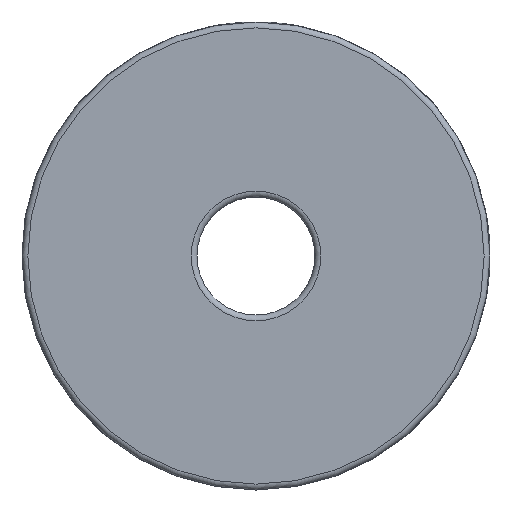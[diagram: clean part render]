
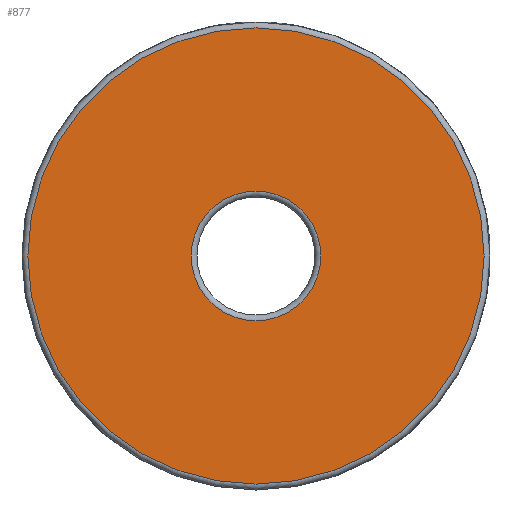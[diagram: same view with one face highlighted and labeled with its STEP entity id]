
A CAD part, front view. The second image highlights one B-rep face of the part: STEP entity #877.
In plain terms, the highlighted planar face has unit normal (0, -1, 0).
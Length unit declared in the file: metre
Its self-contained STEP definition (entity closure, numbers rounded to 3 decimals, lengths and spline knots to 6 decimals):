
#18=PLANE('',#981);
#104=CIRCLE('',#980,0.00277);
#105=CIRCLE('',#982,0.00975);
#202=ORIENTED_EDGE('',*,*,#429,.T.);
#203=ORIENTED_EDGE('',*,*,#428,.F.);
#428=EDGE_CURVE('',#544,#544,#104,.T.);
#429=EDGE_CURVE('',#545,#545,#105,.T.);
#544=VERTEX_POINT('',#1571);
#545=VERTEX_POINT('',#1574);
#718=EDGE_LOOP('',(#202));
#719=EDGE_LOOP('',(#203));
#810=FACE_BOUND('',#718,.T.);
#811=FACE_BOUND('',#719,.T.);
#877=ADVANCED_FACE('',(#810,#811),#18,.T.);
#980=AXIS2_PLACEMENT_3D('',#1570,#1161,#1162);
#981=AXIS2_PLACEMENT_3D('',#1572,#1163,#1164);
#982=AXIS2_PLACEMENT_3D('',#1573,#1165,#1166);
#1161=DIRECTION('',(0.,-1.,0.));
#1162=DIRECTION('',(0.,0.,-1.));
#1163=DIRECTION('',(0.,-1.,0.));
#1164=DIRECTION('',(0.,0.,-1.));
#1165=DIRECTION('',(0.,-1.,0.));
#1166=DIRECTION('',(0.,0.,-1.));
#1570=CARTESIAN_POINT('',(0.,0.,0.));
#1571=CARTESIAN_POINT('',(0.,0.,-0.00277));
#1572=CARTESIAN_POINT('',(0.00277,0.,0.));
#1573=CARTESIAN_POINT('',(0.,0.,0.));
#1574=CARTESIAN_POINT('',(0.,0.,-0.00975));
